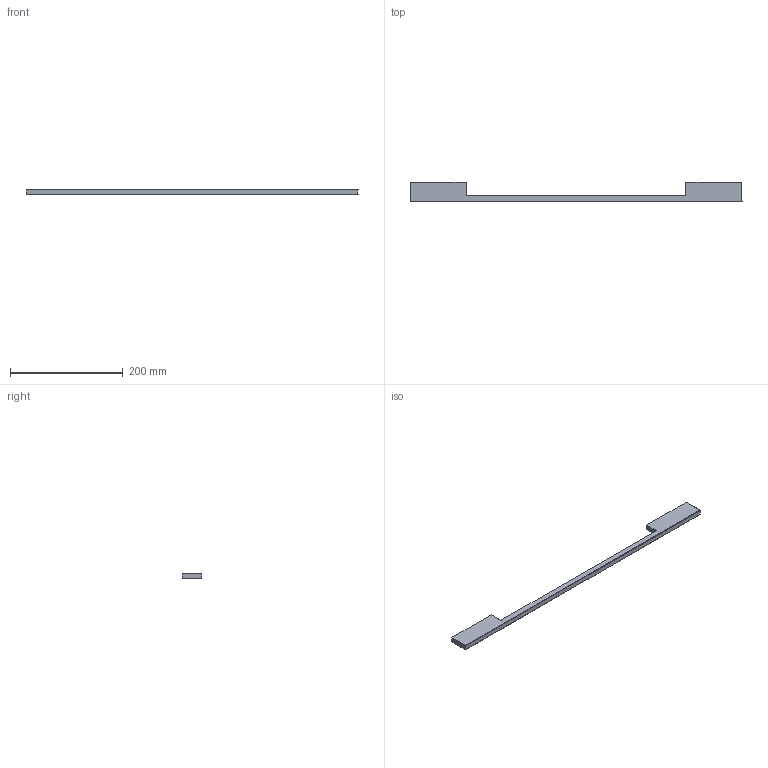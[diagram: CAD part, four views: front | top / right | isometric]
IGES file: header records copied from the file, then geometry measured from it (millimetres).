
Start section: Data from Parasolid IGES Translator 15.0.47, Copyright(c) 2006 Siemens P LM Software. All Rights Reserved.
Global section: file name: 9995590.igs; native system:  By UGS Corp.; preprocessor: XPlus GENERIC/IGES 3.0; author: Noname; organization: Noname; date: 20140122.183135; units: millimetre
Bounding box: 588.01 x 35.01 x 9.01 mm (x, y, z)
Surface area: 34231.6 mm2 (no closed solid volume)
Topology: 0 solids, 0 shells, 24 faces, 112 edges, 110 vertices
Faces by surface type: revolution 13, extrusion 11
